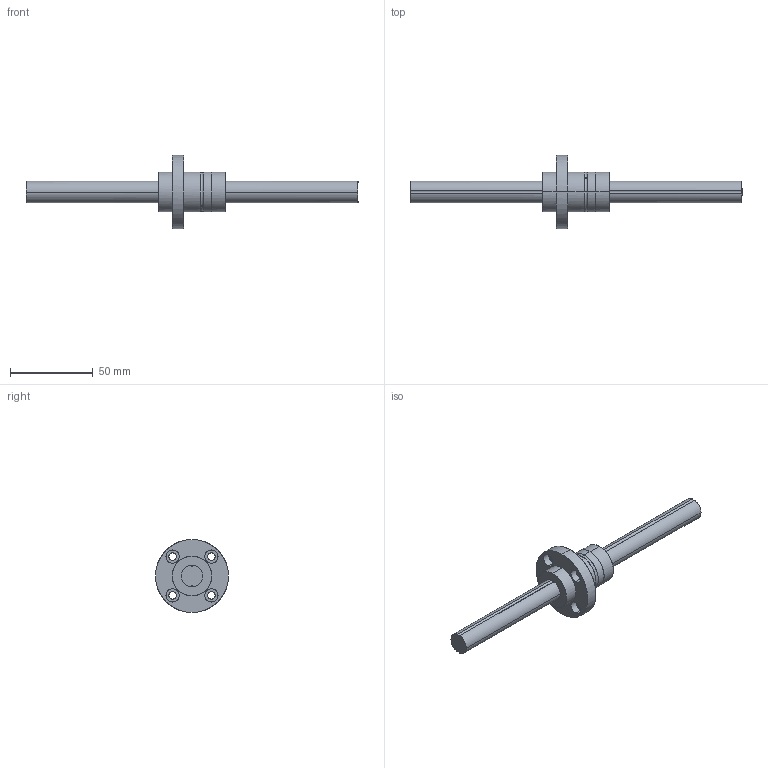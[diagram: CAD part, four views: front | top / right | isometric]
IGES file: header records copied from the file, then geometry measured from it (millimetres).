
Global section: file name: No Iges File Name specified; native system: AutoDesk Inventor R11.0; preprocessor: AutoDesk Inventor Iges Exporter R11.0; author: No Author specified; organization: No Organization specified; date: 20150223.133122; units: millimetre
Bounding box: 200 x 44 x 44 mm (x, y, z)
Surface area: 16922.8 mm2 (no closed solid volume)
Topology: 0 solids, 0 shells, 54 faces, 380 edges, 380 vertices
Faces by surface type: bspline 54
